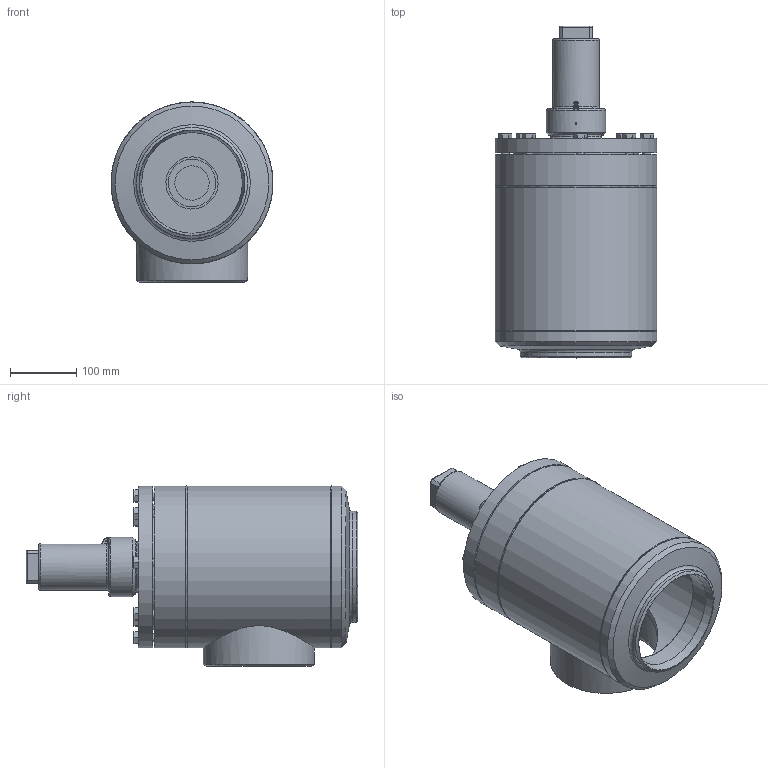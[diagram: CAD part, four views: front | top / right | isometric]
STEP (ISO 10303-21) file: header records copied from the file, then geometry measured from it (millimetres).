
FILE_DESCRIPTION((''),'2;1');
FILE_NAME('Y:\Konstruktion\_3D-SolidWorks_Arbeit (Grams)\___x___Temp\AVB16400D21A5A3AA0_DN150_R1_PS40.stp','2012-01-23T08:31:02',('Jacob.Er'),(''),'Autodesk Inventor 2011','Autodesk Inventor 2011','');
FILE_SCHEMA(('AUTOMOTIVE_DESIGN { 1 0 10303 214 1 1 1 1 }'));
Length unit declared in the file: millimetre
Products named in the file (12): AVB16400D21A5A3AA0_DN150_R1_PS40; Geh,kpl 16300E21-5030AA1_DN150_R1; Gehäuse16300-DN150; Boden16300-DN150; Rohrstutzen-A16300a-21_R1; Kopfstück16300-DN150; bead Geh,kpl 16400-21-1; bead Geh,kpl 16400-21-2; Kappe 16402-21_DN125-150 (M76x3); AVB16300E21_Deck+Schr-DN150; Deckel16300E21-DN150; Sechskantschraube-DIN933
Assembly tree (18 placements, depth 3):
  AVB16400D21A5A3AA0_DN150_R1_PS40
    Geh,kpl 16300E21-5030AA1_DN150_R1
      Gehäuse16300-DN150
      Boden16300-DN150
      Rohrstutzen-A16300a-21_R1
      Kopfstück16300-DN150
      bead Geh,kpl 16400-21-1
      bead Geh,kpl 16400-21-2
    Kappe 16402-21_DN125-150 (M76x3)
    AVB16300E21_Deck+Schr-DN150
      Deckel16300E21-DN150
      Sechskantschraube-DIN933  x8
Bounding box: 245.28 x 502.5 x 272.64 mm (x, y, z)
Volume: 5752557.3 mm3; surface area: 925333 mm2
Topology: 16 solids, 16 shells, 312 faces, 658 edges, 398 vertices
Faces by surface type: plane 113, cone 113, cylinder 60, bspline 15, torus 11
Full cylindrical faces by diameter (mm): 2 x1, 3 x1, 12 x8, 18 x8, 36.5 x1, 46 x1, 52.1 x1, 54.5 x1, 64 x1, 70 x1, 72 x2, 73 x1, 76 x1, 79 x1, 90 x1, 152.5 x1, 155.7 x1, 157 x1, 168.3 x2, 170 x2, 190 x2, 228.5 x1, 244.5 x1, 245 x3
Entity records: 5893 total; most frequent: CARTESIAN_POINT 2646, DIRECTION 643, ORIENTED_EDGE 490, AXIS2_PLACEMENT_3D 302, EDGE_LOOP 248, EDGE_CURVE 245, VERTEX_POINT 175, FACE_OUTER_BOUND 151
